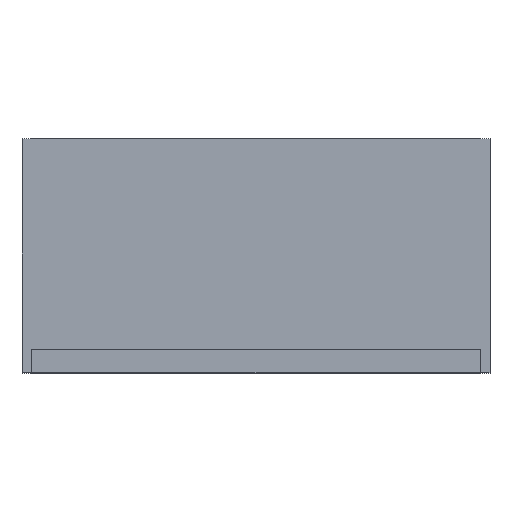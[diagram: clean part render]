
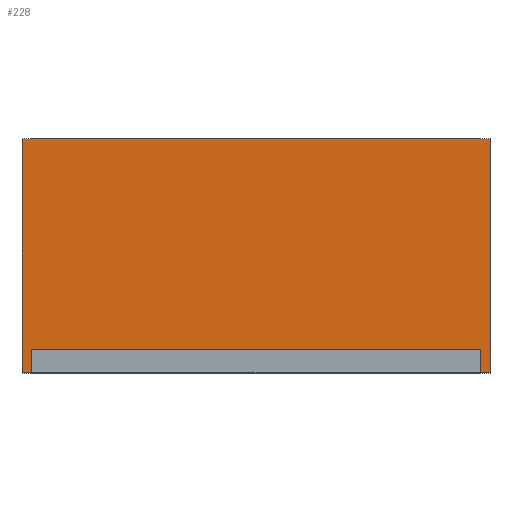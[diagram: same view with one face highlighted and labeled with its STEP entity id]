
A CAD part, top view. The second image highlights one B-rep face of the part: STEP entity #228.
In plain terms, the highlighted planar face has unit normal (0, 0, 1).
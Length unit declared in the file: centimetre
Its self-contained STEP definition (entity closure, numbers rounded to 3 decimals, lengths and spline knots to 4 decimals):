
#228=ADVANCED_FACE('',(#350),#1866,.T.);
#350=FACE_OUTER_BOUND('',#475,.T.);
#475=EDGE_LOOP('',(#673,#674,#675,#676,#677,#678,#679,#680));
#673=ORIENTED_EDGE('',*,*,#1158,.F.);
#674=ORIENTED_EDGE('',*,*,#1159,.F.);
#675=ORIENTED_EDGE('',*,*,#1160,.F.);
#676=ORIENTED_EDGE('',*,*,#1161,.F.);
#677=ORIENTED_EDGE('',*,*,#1162,.F.);
#678=ORIENTED_EDGE('',*,*,#1163,.F.);
#679=ORIENTED_EDGE('',*,*,#1164,.F.);
#680=ORIENTED_EDGE('',*,*,#1157,.F.);
#1157=EDGE_CURVE('',#1689,#1690,#1431,.T.);
#1158=EDGE_CURVE('',#1691,#1689,#1432,.T.);
#1159=EDGE_CURVE('',#1692,#1691,#1433,.T.);
#1160=EDGE_CURVE('',#1693,#1692,#1434,.T.);
#1161=EDGE_CURVE('',#1694,#1693,#1435,.T.);
#1162=EDGE_CURVE('',#1695,#1694,#1436,.T.);
#1163=EDGE_CURVE('',#1696,#1695,#1437,.T.);
#1164=EDGE_CURVE('',#1690,#1696,#1438,.T.);
#1431=B_SPLINE_CURVE_WITH_KNOTS('',1,(#2420,#2421),.UNSPECIFIED.,.F.,.F.,
(2,2),(0.,50.),.UNSPECIFIED.);
#1432=B_SPLINE_CURVE_WITH_KNOTS('',1,(#2422,#2423),.UNSPECIFIED.,.F.,.F.,
(2,2),(0.,2.),.UNSPECIFIED.);
#1433=B_SPLINE_CURVE_WITH_KNOTS('',1,(#2424,#2425),.UNSPECIFIED.,.F.,.F.,
(2,2),(0.,5.),.UNSPECIFIED.);
#1434=B_SPLINE_CURVE_WITH_KNOTS('',1,(#2426,#2427),.UNSPECIFIED.,.F.,.F.,
(2,2),(0.,96.),.UNSPECIFIED.);
#1435=B_SPLINE_CURVE_WITH_KNOTS('',1,(#2428,#2429),.UNSPECIFIED.,.F.,.F.,
(2,2),(0.,5.),.UNSPECIFIED.);
#1436=B_SPLINE_CURVE_WITH_KNOTS('',1,(#2430,#2431),.UNSPECIFIED.,.F.,.F.,
(2,2),(0.,2.),.UNSPECIFIED.);
#1437=B_SPLINE_CURVE_WITH_KNOTS('',1,(#2432,#2433),.UNSPECIFIED.,.F.,.F.,
(2,2),(0.,50.),.UNSPECIFIED.);
#1438=B_SPLINE_CURVE_WITH_KNOTS('',1,(#2434,#2435),.UNSPECIFIED.,.F.,.F.,
(2,2),(0.,100.),.UNSPECIFIED.);
#1689=VERTEX_POINT('',#2400);
#1690=VERTEX_POINT('',#2401);
#1691=VERTEX_POINT('',#2402);
#1692=VERTEX_POINT('',#2403);
#1693=VERTEX_POINT('',#2404);
#1694=VERTEX_POINT('',#2405);
#1695=VERTEX_POINT('',#2406);
#1696=VERTEX_POINT('',#2407);
#1866=PLANE('',#2008);
#2008=AXIS2_PLACEMENT_3D('',#2389,#2134,$);
#2134=DIRECTION('',(0.,0.,1.));
#2389=CARTESIAN_POINT('',(60.0012,-27.9825,140.));
#2400=CARTESIAN_POINT('',(-50.,-22.9813,140.));
#2401=CARTESIAN_POINT('',(-50.,27.0187,140.));
#2402=CARTESIAN_POINT('',(-48.,-22.9813,140.));
#2403=CARTESIAN_POINT('',(-48.,-17.9813,140.));
#2404=CARTESIAN_POINT('',(48.,-17.9813,140.));
#2405=CARTESIAN_POINT('',(48.,-22.9813,140.));
#2406=CARTESIAN_POINT('',(50.,-22.9813,140.));
#2407=CARTESIAN_POINT('',(50.,27.0187,140.));
#2420=CARTESIAN_POINT('',(-50.,-22.9813,140.));
#2421=CARTESIAN_POINT('',(-50.,27.0187,140.));
#2422=CARTESIAN_POINT('',(-48.,-22.9813,140.));
#2423=CARTESIAN_POINT('',(-50.,-22.9813,140.));
#2424=CARTESIAN_POINT('',(-48.,-17.9813,140.));
#2425=CARTESIAN_POINT('',(-48.,-22.9813,140.));
#2426=CARTESIAN_POINT('',(48.,-17.9813,140.));
#2427=CARTESIAN_POINT('',(-48.,-17.9813,140.));
#2428=CARTESIAN_POINT('',(48.,-22.9813,140.));
#2429=CARTESIAN_POINT('',(48.,-17.9813,140.));
#2430=CARTESIAN_POINT('',(50.,-22.9813,140.));
#2431=CARTESIAN_POINT('',(48.,-22.9813,140.));
#2432=CARTESIAN_POINT('',(50.,27.0187,140.));
#2433=CARTESIAN_POINT('',(50.,-22.9813,140.));
#2434=CARTESIAN_POINT('',(-50.,27.0187,140.));
#2435=CARTESIAN_POINT('',(50.,27.0187,140.));
